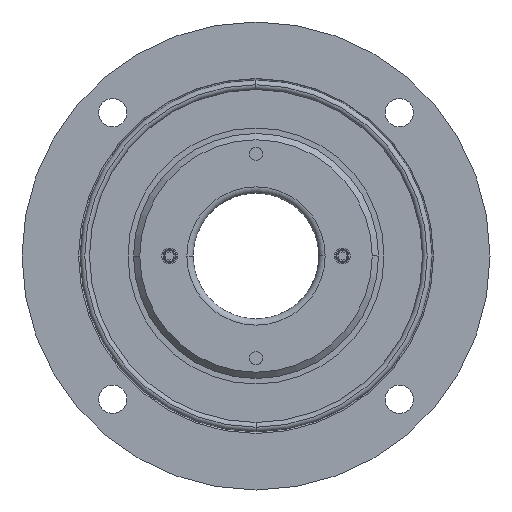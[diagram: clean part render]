
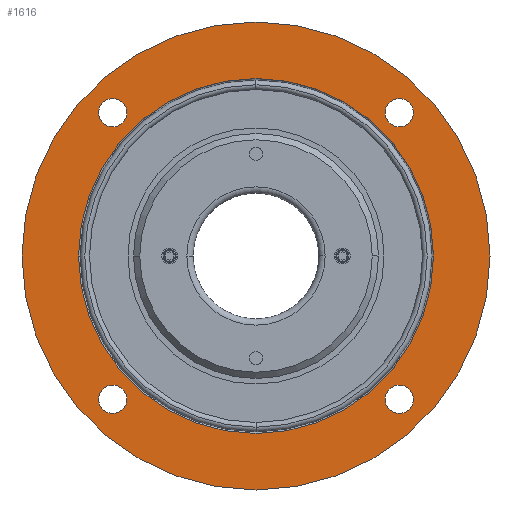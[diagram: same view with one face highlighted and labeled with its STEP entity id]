
A CAD part, front view. The second image highlights one B-rep face of the part: STEP entity #1616.
In plain terms, the highlighted planar face has unit normal (0, -1, 0).
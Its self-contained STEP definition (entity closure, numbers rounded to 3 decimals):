
#536=CARTESIAN_POINT('',(0.,0.,0.));
#537=DIRECTION('',(0.,-1.,0.));
#538=DIRECTION('',(1.,0.,0.));
#539=AXIS2_PLACEMENT_3D('',#536,#537,#538);
#678=CARTESIAN_POINT('',(-45.608,0.,-45.608));
#679=DIRECTION('',(0.,1.,0.));
#680=DIRECTION('',(1.,0.,0.));
#681=AXIS2_PLACEMENT_3D('',#678,#679,#680);
#686=CARTESIAN_POINT('',(-45.608,0.,-45.608));
#687=DIRECTION('',(0.,1.,0.));
#688=DIRECTION('',(-1.,0.,0.));
#689=AXIS2_PLACEMENT_3D('',#686,#687,#688);
#694=CARTESIAN_POINT('',(45.608,0.,-45.608));
#695=DIRECTION('',(0.,1.,0.));
#696=DIRECTION('',(1.,0.,0.));
#697=AXIS2_PLACEMENT_3D('',#694,#695,#696);
#702=CARTESIAN_POINT('',(45.608,0.,-45.608));
#703=DIRECTION('',(0.,1.,0.));
#704=DIRECTION('',(-1.,0.,0.));
#705=AXIS2_PLACEMENT_3D('',#702,#703,#704);
#710=CARTESIAN_POINT('',(45.608,0.,45.608));
#711=DIRECTION('',(0.,1.,0.));
#712=DIRECTION('',(1.,0.,0.));
#713=AXIS2_PLACEMENT_3D('',#710,#711,#712);
#718=CARTESIAN_POINT('',(45.608,0.,45.608));
#719=DIRECTION('',(0.,1.,0.));
#720=DIRECTION('',(-1.,0.,0.));
#721=AXIS2_PLACEMENT_3D('',#718,#719,#720);
#726=CARTESIAN_POINT('',(-45.608,0.,45.608));
#727=DIRECTION('',(0.,1.,0.));
#728=DIRECTION('',(1.,0.,0.));
#729=AXIS2_PLACEMENT_3D('',#726,#727,#728);
#734=CARTESIAN_POINT('',(-45.608,0.,45.608));
#735=DIRECTION('',(0.,1.,0.));
#736=DIRECTION('',(-1.,0.,0.));
#737=AXIS2_PLACEMENT_3D('',#734,#735,#736);
#742=CARTESIAN_POINT('',(0.,0.,0.));
#743=DIRECTION('',(0.,-1.,0.));
#744=DIRECTION('',(-1.,0.,0.));
#745=AXIS2_PLACEMENT_3D('',#742,#743,#744);
#750=CARTESIAN_POINT('',(0.,0.,0.));
#751=DIRECTION('',(0.,-1.,0.));
#752=DIRECTION('',(1.,0.,0.));
#753=AXIS2_PLACEMENT_3D('',#750,#751,#752);
#789=CARTESIAN_POINT('',(0.,0.,0.));
#790=DIRECTION('',(0.,1.,0.));
#791=DIRECTION('',(1.,0.,0.));
#792=AXIS2_PLACEMENT_3D('',#789,#790,#791);
#1388=CARTESIAN_POINT('',(74.5,0.,0.));
#1389=CARTESIAN_POINT('',(-74.5,0.,0.));
#1390=VERTEX_POINT('',#1388);
#1391=VERTEX_POINT('',#1389);
#1422=CARTESIAN_POINT('',(-41.108,0.,-45.608));
#1423=CARTESIAN_POINT('',(-50.108,0.,-45.608));
#1424=VERTEX_POINT('',#1422);
#1425=VERTEX_POINT('',#1423);
#1426=CARTESIAN_POINT('',(50.108,0.,-45.608));
#1427=CARTESIAN_POINT('',(41.108,0.,-45.608));
#1428=VERTEX_POINT('',#1426);
#1429=VERTEX_POINT('',#1427);
#1430=CARTESIAN_POINT('',(50.108,0.,45.608));
#1431=CARTESIAN_POINT('',(41.108,0.,45.608));
#1432=VERTEX_POINT('',#1430);
#1433=VERTEX_POINT('',#1431);
#1434=CARTESIAN_POINT('',(-41.108,0.,45.608));
#1435=CARTESIAN_POINT('',(-50.108,0.,45.608));
#1436=VERTEX_POINT('',#1434);
#1437=VERTEX_POINT('',#1435);
#1454=CARTESIAN_POINT('',(-56.5,0.,0.));
#1455=CARTESIAN_POINT('',(56.5,0.,0.));
#1456=VERTEX_POINT('',#1454);
#1457=VERTEX_POINT('',#1455);
#1578=CARTESIAN_POINT('',(0.,0.,0.));
#1579=DIRECTION('',(0.,-1.,0.));
#1580=DIRECTION('',(-1.,0.,0.));
#1581=AXIS2_PLACEMENT_3D('',#1578,#1579,#1580);
#1582=PLANE('',#1581);
#1583=ORIENTED_EDGE('',*,*,#1487,.F.);
#1585=ORIENTED_EDGE('',*,*,#1584,.T.);
#1586=EDGE_LOOP('',(#1583,#1585));
#1587=FACE_OUTER_BOUND('',#1586,.F.);
#1588=ORIENTED_EDGE('',*,*,#1558,.F.);
#1589=ORIENTED_EDGE('',*,*,#1572,.F.);
#1590=EDGE_LOOP('',(#1588,#1589));
#1591=FACE_BOUND('',#1590,.F.);
#1593=ORIENTED_EDGE('',*,*,#1592,.F.);
#1595=ORIENTED_EDGE('',*,*,#1594,.F.);
#1596=EDGE_LOOP('',(#1593,#1595));
#1597=FACE_BOUND('',#1596,.F.);
#1599=ORIENTED_EDGE('',*,*,#1598,.F.);
#1601=ORIENTED_EDGE('',*,*,#1600,.F.);
#1602=EDGE_LOOP('',(#1599,#1601));
#1603=FACE_BOUND('',#1602,.F.);
#1605=ORIENTED_EDGE('',*,*,#1604,.F.);
#1607=ORIENTED_EDGE('',*,*,#1606,.F.);
#1608=EDGE_LOOP('',(#1605,#1607));
#1609=FACE_BOUND('',#1608,.F.);
#1611=ORIENTED_EDGE('',*,*,#1610,.T.);
#1613=ORIENTED_EDGE('',*,*,#1612,.T.);
#1614=EDGE_LOOP('',(#1611,#1613));
#1615=FACE_BOUND('',#1614,.F.);
#540=CIRCLE('',#539,74.5);
#682=CIRCLE('',#681,4.5);
#690=CIRCLE('',#689,4.5);
#698=CIRCLE('',#697,4.5);
#706=CIRCLE('',#705,4.5);
#714=CIRCLE('',#713,4.5);
#722=CIRCLE('',#721,4.5);
#730=CIRCLE('',#729,4.5);
#738=CIRCLE('',#737,4.5);
#746=CIRCLE('',#745,56.5);
#754=CIRCLE('',#753,56.5);
#793=CIRCLE('',#792,74.5);
#1487=EDGE_CURVE('',#1390,#1391,#540,.T.);
#1558=EDGE_CURVE('',#1424,#1425,#682,.T.);
#1572=EDGE_CURVE('',#1425,#1424,#690,.T.);
#1584=EDGE_CURVE('',#1390,#1391,#793,.T.);
#1592=EDGE_CURVE('',#1428,#1429,#698,.T.);
#1594=EDGE_CURVE('',#1429,#1428,#706,.T.);
#1598=EDGE_CURVE('',#1432,#1433,#714,.T.);
#1600=EDGE_CURVE('',#1433,#1432,#722,.T.);
#1604=EDGE_CURVE('',#1436,#1437,#730,.T.);
#1606=EDGE_CURVE('',#1437,#1436,#738,.T.);
#1610=EDGE_CURVE('',#1456,#1457,#746,.T.);
#1612=EDGE_CURVE('',#1457,#1456,#754,.T.);
#1616=ADVANCED_FACE('',(#1587,#1591,#1597,#1603,#1609,#1615),#1582,.T.);
